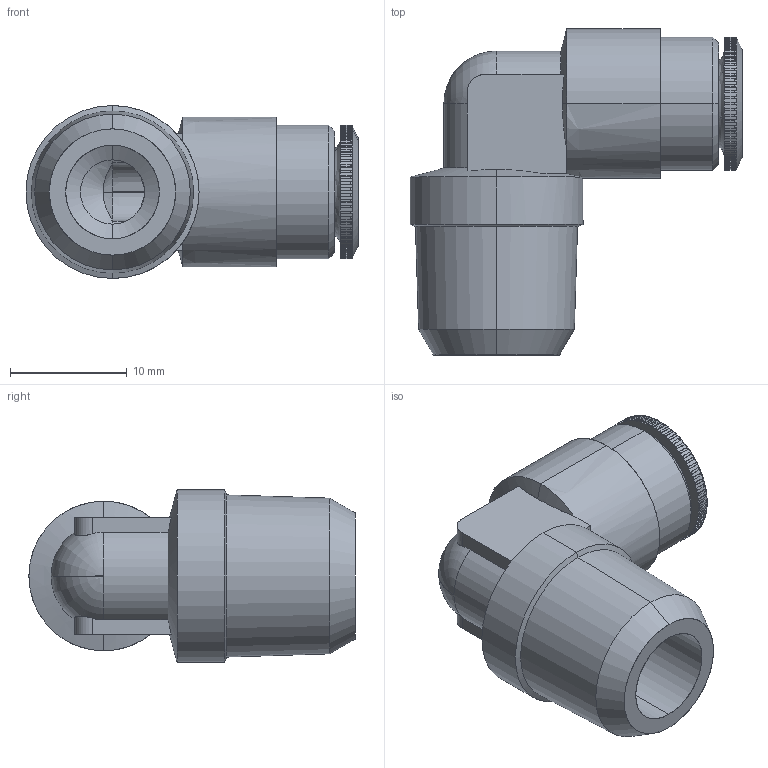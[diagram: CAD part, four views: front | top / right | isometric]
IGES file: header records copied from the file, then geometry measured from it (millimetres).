
Start section: SolidWorks IGES file using analytic representation for surfaces
Global section: file name: K:\Disegni Esecutivi\SERIE 58000\ASSIEMI\58100\58100_3D\5810000009A.igs; native system: SolidWorks 2016; preprocessor: SolidWorks 2016; author: cad01; date: 200221.092841; units: millimetre
Bounding box: 28.4 x 27.9 x 14.8 mm (x, y, z)
Surface area: 2871.2 mm2 (no closed solid volume)
Topology: 0 solids, 0 shells, 365 faces, 2803 edges, 2801 vertices
Faces by surface type: bspline 234, revolution 131
